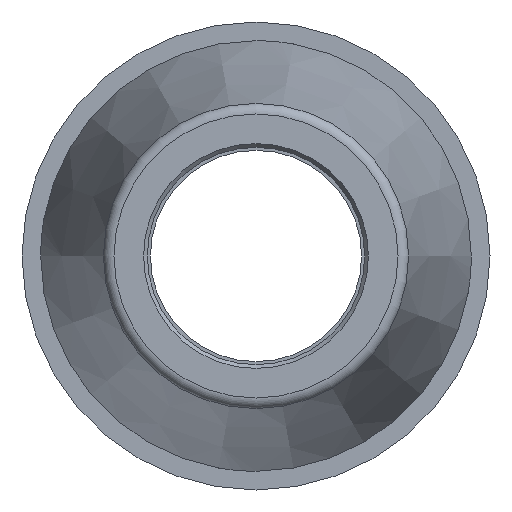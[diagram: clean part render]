
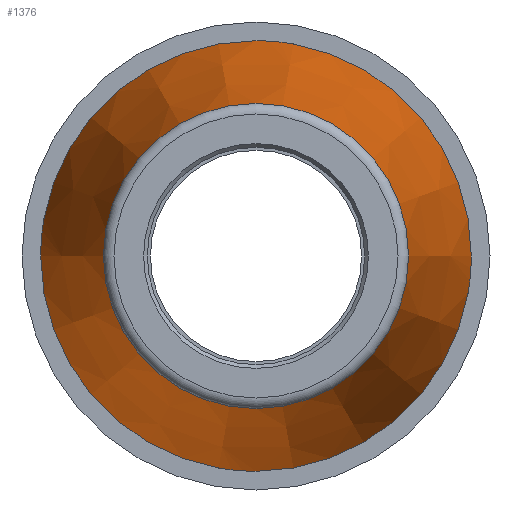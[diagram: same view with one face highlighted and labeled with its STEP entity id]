
A CAD part, left-side view. The second image highlights one B-rep face of the part: STEP entity #1376.
In plain terms, the highlighted conical face has half-angle 11.268 degrees and reference radius 29.73 mm.
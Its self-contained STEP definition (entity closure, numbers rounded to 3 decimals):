
#300=FACE_BOUND('',#428,.T.);
#328=FACE_OUTER_BOUND('',#427,.T.);
#427=EDGE_LOOP('',(#981,#982,#983,#984,#985,#986,#987,#988));
#428=EDGE_LOOP('',(#989));
#541=CIRCLE('',#1478,24.781);
#542=CIRCLE('',#1480,34.96);
#543=CIRCLE('',#1481,34.96);
#544=CIRCLE('',#1482,34.96);
#545=CIRCLE('',#1483,34.96);
#546=CIRCLE('',#1484,34.96);
#547=CIRCLE('',#1485,34.96);
#548=CIRCLE('',#1486,34.96);
#549=CIRCLE('',#1487,34.96);
#643=VERTEX_POINT('',#2167);
#644=VERTEX_POINT('',#2170);
#645=VERTEX_POINT('',#2171);
#646=VERTEX_POINT('',#2173);
#647=VERTEX_POINT('',#2175);
#648=VERTEX_POINT('',#2177);
#649=VERTEX_POINT('',#2179);
#650=VERTEX_POINT('',#2181);
#651=VERTEX_POINT('',#2183);
#777=EDGE_CURVE('',#643,#643,#541,.T.);
#778=EDGE_CURVE('',#644,#645,#542,.T.);
#779=EDGE_CURVE('',#646,#644,#543,.T.);
#780=EDGE_CURVE('',#647,#646,#544,.T.);
#781=EDGE_CURVE('',#648,#647,#545,.T.);
#782=EDGE_CURVE('',#649,#648,#546,.T.);
#783=EDGE_CURVE('',#650,#649,#547,.T.);
#784=EDGE_CURVE('',#651,#650,#548,.T.);
#785=EDGE_CURVE('',#645,#651,#549,.T.);
#981=ORIENTED_EDGE('',*,*,#778,.F.);
#982=ORIENTED_EDGE('',*,*,#779,.F.);
#983=ORIENTED_EDGE('',*,*,#780,.F.);
#984=ORIENTED_EDGE('',*,*,#781,.F.);
#985=ORIENTED_EDGE('',*,*,#782,.F.);
#986=ORIENTED_EDGE('',*,*,#783,.F.);
#987=ORIENTED_EDGE('',*,*,#784,.F.);
#988=ORIENTED_EDGE('',*,*,#785,.F.);
#989=ORIENTED_EDGE('',*,*,#777,.F.);
#1367=CONICAL_SURFACE('',#1479,29.73,11.268);
#1376=ADVANCED_FACE('',(#328,#300),#1367,.T.);
#1478=AXIS2_PLACEMENT_3D('',#2168,#1689,#1690);
#1479=AXIS2_PLACEMENT_3D('',#2169,#1691,#1692);
#1480=AXIS2_PLACEMENT_3D('',#2172,#1693,#1694);
#1481=AXIS2_PLACEMENT_3D('',#2174,#1695,#1696);
#1482=AXIS2_PLACEMENT_3D('',#2176,#1697,#1698);
#1483=AXIS2_PLACEMENT_3D('',#2178,#1699,#1700);
#1484=AXIS2_PLACEMENT_3D('',#2180,#1701,#1702);
#1485=AXIS2_PLACEMENT_3D('',#2182,#1703,#1704);
#1486=AXIS2_PLACEMENT_3D('',#2184,#1705,#1706);
#1487=AXIS2_PLACEMENT_3D('',#2185,#1707,#1708);
#1689=DIRECTION('center_axis',(-1.,0.,0.));
#1690=DIRECTION('ref_axis',(0.,-1.,0.));
#1691=DIRECTION('center_axis',(1.,0.,0.));
#1692=DIRECTION('ref_axis',(0.,1.,0.));
#1693=DIRECTION('center_axis',(1.,0.,0.));
#1694=DIRECTION('ref_axis',(0.,0.,-1.));
#1695=DIRECTION('center_axis',(1.,0.,0.));
#1696=DIRECTION('ref_axis',(0.,0.,-1.));
#1697=DIRECTION('center_axis',(1.,0.,0.));
#1698=DIRECTION('ref_axis',(0.,0.,-1.));
#1699=DIRECTION('center_axis',(1.,0.,0.));
#1700=DIRECTION('ref_axis',(0.,0.,-1.));
#1701=DIRECTION('center_axis',(1.,0.,0.));
#1702=DIRECTION('ref_axis',(0.,0.,-1.));
#1703=DIRECTION('center_axis',(1.,0.,0.));
#1704=DIRECTION('ref_axis',(0.,0.,-1.));
#1705=DIRECTION('center_axis',(1.,0.,0.));
#1706=DIRECTION('ref_axis',(0.,0.,-1.));
#1707=DIRECTION('center_axis',(1.,0.,0.));
#1708=DIRECTION('ref_axis',(0.,0.,-1.));
#2167=CARTESIAN_POINT('',(-103.592,24.781,0.));
#2168=CARTESIAN_POINT('Origin',(-103.592,0.,0.));
#2169=CARTESIAN_POINT('Origin',(-78.75,0.,0.));
#2170=CARTESIAN_POINT('',(-52.5,0.,34.96));
#2171=CARTESIAN_POINT('',(-52.5,-6.071,34.429));
#2172=CARTESIAN_POINT('Origin',(-52.5,0.,0.));
#2173=CARTESIAN_POINT('',(-52.5,34.429,6.071));
#2174=CARTESIAN_POINT('Origin',(-52.5,0.,0.));
#2175=CARTESIAN_POINT('',(-52.5,34.96,0.));
#2176=CARTESIAN_POINT('Origin',(-52.5,0.,0.));
#2177=CARTESIAN_POINT('',(-52.5,6.071,-34.429));
#2178=CARTESIAN_POINT('Origin',(-52.5,0.,0.));
#2179=CARTESIAN_POINT('',(-52.5,0.,-34.96));
#2180=CARTESIAN_POINT('Origin',(-52.5,0.,0.));
#2181=CARTESIAN_POINT('',(-52.5,-34.429,-6.071));
#2182=CARTESIAN_POINT('Origin',(-52.5,0.,0.));
#2183=CARTESIAN_POINT('',(-52.5,-34.96,0.));
#2184=CARTESIAN_POINT('Origin',(-52.5,0.,0.));
#2185=CARTESIAN_POINT('Origin',(-52.5,0.,0.));
